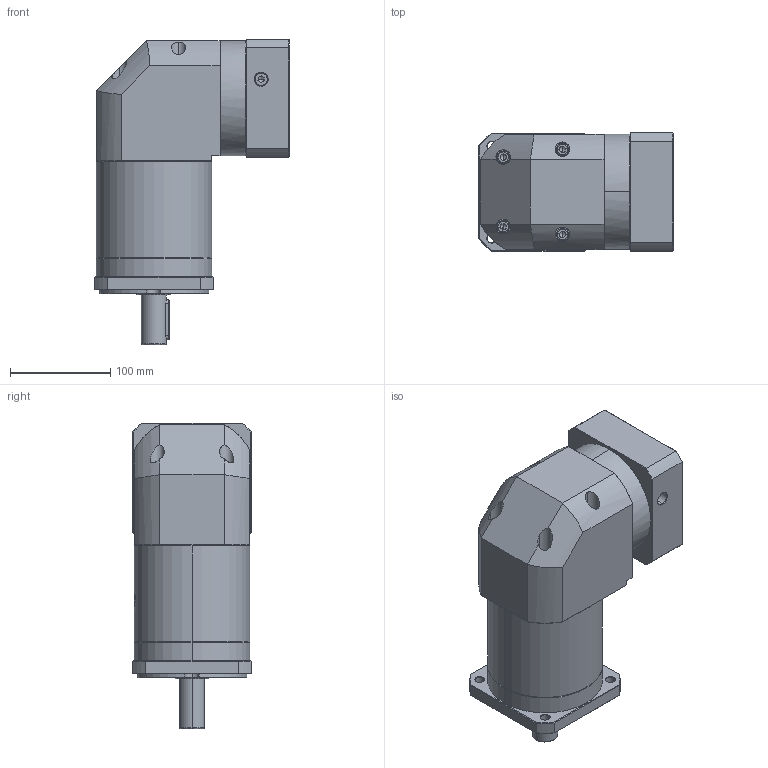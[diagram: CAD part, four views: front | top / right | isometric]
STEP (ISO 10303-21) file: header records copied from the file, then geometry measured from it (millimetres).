
FILE_DESCRIPTION (( 'STEP AP214' ), '1' );
FILE_NAME ('ZFR120A-D25-L3-P2-24-95-130-M8.step', '2023-08-27T08:06:03', ( '' ), ( '' ), 'SwSTEP 2.0', 'SolidWorks 2016', '' );
FILE_SCHEMA (( 'AUTOMOTIVE_DESIGN' ));
Length unit declared in the file: millimetre
Products named in the file (1): ZFR120A-D25-L3-P2-24-95-130-M8
Bounding box: 193.9 x 118 x 305 mm (x, y, z)
Volume: 3486005.6 mm3; surface area: 264483.5 mm2
Topology: 6 solids, 6 shells, 2265 faces, 5985 edges, 3825 vertices
Faces by surface type: plane 1061, cylinder 434, bspline 424, cone 338, torus 8
Entity records: 124160 total; most frequent: CARTESIAN_POINT 48694, ORIENTED_EDGE 11910, DIRECTION 8640, EDGE_CURVE 5955, VERTEX_POINT 3825, LINE 3160, VECTOR 3160, AXIS2_PLACEMENT_3D 2740
